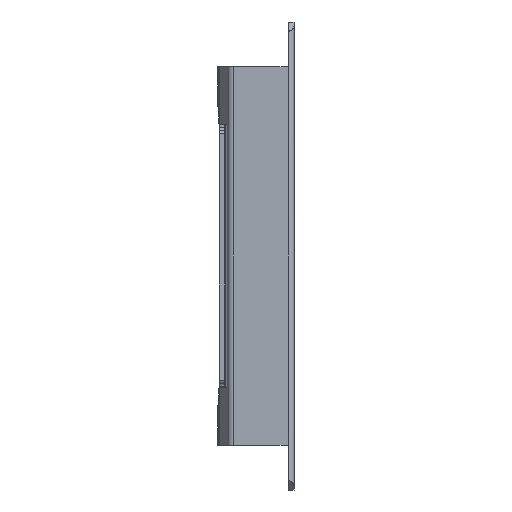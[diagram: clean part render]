
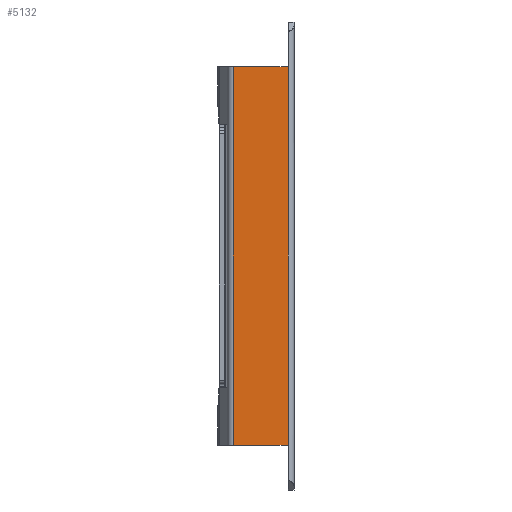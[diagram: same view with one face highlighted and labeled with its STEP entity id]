
A CAD part, front view. The second image highlights one B-rep face of the part: STEP entity #5132.
In plain terms, the highlighted planar face has unit normal (0, -1, 0).
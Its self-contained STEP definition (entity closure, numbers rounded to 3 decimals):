
#15 = ORIENTED_EDGE ( 'NONE', *, *, #12107, .F. ) ;
#474 = CARTESIAN_POINT ( 'NONE',  ( -0.5, -18.7, 126. ) ) ;
#709 = ORIENTED_EDGE ( 'NONE', *, *, #7631, .F. ) ;
#836 = CARTESIAN_POINT ( 'NONE',  ( 15.9, -18.7, 126. ) ) ;
#1352 = AXIS2_PLACEMENT_3D ( 'NONE', #836, #7741, #11718 ) ;
#1990 = DIRECTION ( 'NONE',  ( 1., 0., 0. ) ) ;
#2247 = LINE ( 'NONE', #12318, #9013 ) ;
#2834 = CARTESIAN_POINT ( 'NONE',  ( 14.4, -18.7, 12. ) ) ;
#3002 = CARTESIAN_POINT ( 'NONE',  ( 14.4, -18.7, 114. ) ) ;
#3635 = ORIENTED_EDGE ( 'NONE', *, *, #3942, .F. ) ;
#3644 = PLANE ( 'NONE',  #1352 ) ;
#3891 = DIRECTION ( 'NONE',  ( -1., 0., 0. ) ) ;
#3942 = EDGE_CURVE ( 'NONE', #4292, #11838, #13067, .T. ) ;
#4292 = VERTEX_POINT ( 'NONE', #11411 ) ;
#4543 = VERTEX_POINT ( 'NONE', #12077 ) ;
#4696 = FACE_OUTER_BOUND ( 'NONE', #6806, .T. ) ;
#5132 = ADVANCED_FACE ( 'NONE', ( #4696 ), #3644, .F. ) ;
#5819 = VECTOR ( 'NONE', #3891, 1000. ) ;
#6800 = LINE ( 'NONE', #2834, #5819 ) ;
#6806 = EDGE_LOOP ( 'NONE', ( #709, #3635, #11334, #15 ) ) ;
#7416 = CARTESIAN_POINT ( 'NONE',  ( 14.3, -18.7, 114. ) ) ;
#7631 = EDGE_CURVE ( 'NONE', #11838, #4543, #2247, .T. ) ;
#7741 = DIRECTION ( 'NONE',  ( 0., 1., 0. ) ) ;
#7886 = LINE ( 'NONE', #474, #9455 ) ;
#8404 = VERTEX_POINT ( 'NONE', #12423 ) ;
#9013 = VECTOR ( 'NONE', #10404, 1000. ) ;
#9455 = VECTOR ( 'NONE', #10940, 1000. ) ;
#9748 = EDGE_CURVE ( 'NONE', #4292, #8404, #7886, .T. ) ;
#10040 = VECTOR ( 'NONE', #1990, 1000. ) ;
#10404 = DIRECTION ( 'NONE',  ( 0., 0., -1. ) ) ;
#10940 = DIRECTION ( 'NONE',  ( 0., 0., -1. ) ) ;
#11334 = ORIENTED_EDGE ( 'NONE', *, *, #9748, .T. ) ;
#11411 = CARTESIAN_POINT ( 'NONE',  ( -0.5, -18.7, 114. ) ) ;
#11718 = DIRECTION ( 'NONE',  ( -1., 0., 0. ) ) ;
#11838 = VERTEX_POINT ( 'NONE', #7416 ) ;
#12077 = CARTESIAN_POINT ( 'NONE',  ( 14.3, -18.7, 12. ) ) ;
#12107 = EDGE_CURVE ( 'NONE', #4543, #8404, #6800, .T. ) ;
#12318 = CARTESIAN_POINT ( 'NONE',  ( 14.3, -18.7, 126. ) ) ;
#12423 = CARTESIAN_POINT ( 'NONE',  ( -0.5, -18.7, 12. ) ) ;
#13067 = LINE ( 'NONE', #3002, #10040 ) ;
